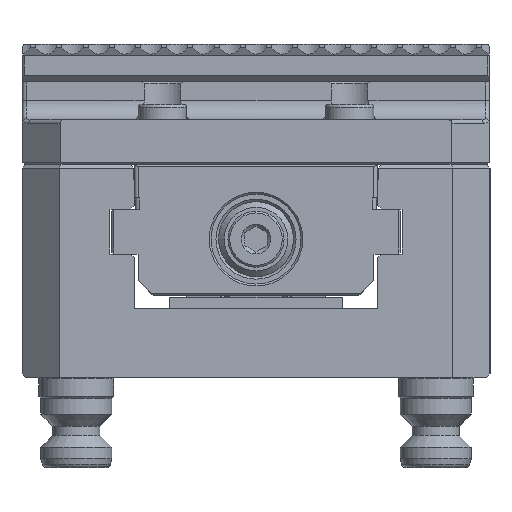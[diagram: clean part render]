
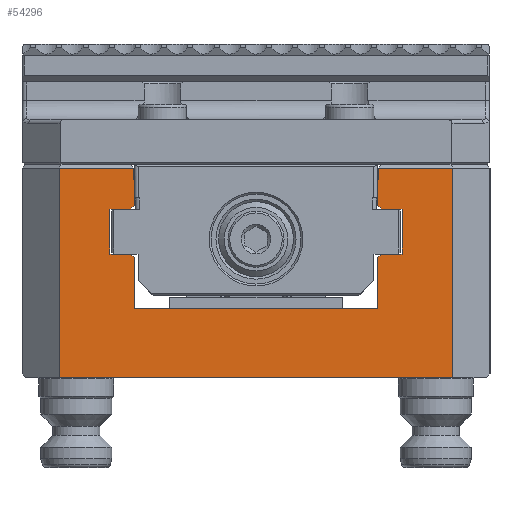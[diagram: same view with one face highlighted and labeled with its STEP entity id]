
A CAD part, left-side view. The second image highlights one B-rep face of the part: STEP entity #54296.
In plain terms, the highlighted planar face has unit normal (-1, 0, 0).
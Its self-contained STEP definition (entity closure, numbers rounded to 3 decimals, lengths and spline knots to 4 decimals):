
#2469=PLANE('',#56775);
#7257=LINE('',#85372,#11976);
#7263=LINE('',#85383,#11982);
#7971=LINE('',#91521,#12690);
#7974=LINE('',#91529,#12693);
#7978=LINE('',#91538,#12697);
#7984=LINE('',#91549,#12703);
#7991=LINE('',#91563,#12710);
#7996=LINE('',#91573,#12715);
#8003=LINE('',#91585,#12722);
#8010=LINE('',#91601,#12729);
#8069=LINE('',#91678,#12788);
#8071=LINE('',#91686,#12790);
#8091=LINE('',#91725,#12810);
#8099=LINE('',#91740,#12818);
#8100=LINE('',#91742,#12819);
#8106=LINE('',#91754,#12825);
#8112=LINE('',#91764,#12831);
#8113=LINE('',#91766,#12832);
#8114=LINE('',#91767,#12833);
#8115=LINE('',#91768,#12834);
#8116=LINE('',#91769,#12835);
#8117=LINE('',#91770,#12836);
#8118=LINE('',#91771,#12837);
#8119=LINE('',#91772,#12838);
#11976=VECTOR('',#63265,0.3937);
#11982=VECTOR('',#63273,0.3937);
#12690=VECTOR('',#64377,0.3937);
#12693=VECTOR('',#64382,0.3937);
#12697=VECTOR('',#64388,0.3937);
#12703=VECTOR('',#64396,0.3937);
#12710=VECTOR('',#64405,0.3937);
#12715=VECTOR('',#64412,0.3937);
#12722=VECTOR('',#64421,0.3937);
#12729=VECTOR('',#64432,0.3937);
#12788=VECTOR('',#64503,0.3937);
#12790=VECTOR('',#64511,0.3937);
#12810=VECTOR('',#64545,0.3937);
#12818=VECTOR('',#64555,0.3937);
#12819=VECTOR('',#64558,0.3937);
#12825=VECTOR('',#64566,0.3937);
#12831=VECTOR('',#64574,0.3937);
#12832=VECTOR('',#64577,0.3937);
#12833=VECTOR('',#64578,0.3937);
#12834=VECTOR('',#64579,0.3937);
#12835=VECTOR('',#64580,0.3937);
#12836=VECTOR('',#64581,0.3937);
#12837=VECTOR('',#64582,0.3937);
#12838=VECTOR('',#64583,0.3937);
#16707=FACE_OUTER_BOUND('',#19814,.T.);
#19814=EDGE_LOOP('',(#44933,#44934,#44935,#44936,#44937,#44938,#44939,#44940,
#44941,#44942,#44943,#44944,#44945,#44946,#44947,#44948,#44949,#44950,#44951,
#44952,#44953,#44954,#44955,#44956));
#24477=VERTEX_POINT('',#85369);
#24478=VERTEX_POINT('',#85371);
#24481=VERTEX_POINT('',#85380);
#24482=VERTEX_POINT('',#85382);
#25298=VERTEX_POINT('',#91519);
#25301=VERTEX_POINT('',#91526);
#25302=VERTEX_POINT('',#91528);
#25305=VERTEX_POINT('',#91535);
#25306=VERTEX_POINT('',#91537);
#25310=VERTEX_POINT('',#91548);
#25315=VERTEX_POINT('',#91560);
#25316=VERTEX_POINT('',#91562);
#25320=VERTEX_POINT('',#91572);
#25324=VERTEX_POINT('',#91584);
#25329=VERTEX_POINT('',#91597);
#25331=VERTEX_POINT('',#91600);
#25343=VERTEX_POINT('',#91675);
#25346=VERTEX_POINT('',#91684);
#25358=VERTEX_POINT('',#91724);
#25362=VERTEX_POINT('',#91734);
#25364=VERTEX_POINT('',#91738);
#25368=VERTEX_POINT('',#91751);
#25369=VERTEX_POINT('',#91753);
#25372=VERTEX_POINT('',#91761);
#30791=EDGE_CURVE('',#24477,#24478,#7257,.T.);
#30797=EDGE_CURVE('',#24481,#24482,#7263,.T.);
#32057=EDGE_CURVE('',#25298,#24477,#7971,.T.);
#32060=EDGE_CURVE('',#25301,#25302,#7974,.T.);
#32064=EDGE_CURVE('',#25305,#25306,#7978,.T.);
#32070=EDGE_CURVE('',#24482,#25310,#7984,.T.);
#32077=EDGE_CURVE('',#25315,#25316,#7991,.T.);
#32082=EDGE_CURVE('',#25316,#25320,#7996,.T.);
#32089=EDGE_CURVE('',#25320,#25324,#8003,.T.);
#32096=EDGE_CURVE('',#25329,#25331,#8010,.T.);
#32155=EDGE_CURVE('',#25331,#25343,#8069,.T.);
#32159=EDGE_CURVE('',#25343,#25346,#8071,.T.);
#32179=EDGE_CURVE('',#25324,#25358,#8091,.T.);
#32187=EDGE_CURVE('',#25362,#25364,#8099,.T.);
#32188=EDGE_CURVE('',#25364,#25358,#8100,.T.);
#32194=EDGE_CURVE('',#25369,#25368,#8106,.T.);
#32200=EDGE_CURVE('',#25346,#25372,#8112,.T.);
#32201=EDGE_CURVE('',#25362,#25329,#8113,.T.);
#32202=EDGE_CURVE('',#25310,#25315,#8114,.T.);
#32203=EDGE_CURVE('',#24478,#24481,#8115,.T.);
#32204=EDGE_CURVE('',#25302,#25298,#8116,.T.);
#32205=EDGE_CURVE('',#25306,#25301,#8117,.T.);
#32206=EDGE_CURVE('',#25369,#25305,#8118,.T.);
#32207=EDGE_CURVE('',#25368,#25372,#8119,.T.);
#44933=ORIENTED_EDGE('',*,*,#32201,.F.);
#44934=ORIENTED_EDGE('',*,*,#32187,.T.);
#44935=ORIENTED_EDGE('',*,*,#32188,.T.);
#44936=ORIENTED_EDGE('',*,*,#32179,.F.);
#44937=ORIENTED_EDGE('',*,*,#32089,.F.);
#44938=ORIENTED_EDGE('',*,*,#32082,.F.);
#44939=ORIENTED_EDGE('',*,*,#32077,.F.);
#44940=ORIENTED_EDGE('',*,*,#32202,.F.);
#44941=ORIENTED_EDGE('',*,*,#32070,.F.);
#44942=ORIENTED_EDGE('',*,*,#30797,.F.);
#44943=ORIENTED_EDGE('',*,*,#32203,.F.);
#44944=ORIENTED_EDGE('',*,*,#30791,.F.);
#44945=ORIENTED_EDGE('',*,*,#32057,.F.);
#44946=ORIENTED_EDGE('',*,*,#32204,.F.);
#44947=ORIENTED_EDGE('',*,*,#32060,.F.);
#44948=ORIENTED_EDGE('',*,*,#32205,.F.);
#44949=ORIENTED_EDGE('',*,*,#32064,.F.);
#44950=ORIENTED_EDGE('',*,*,#32206,.F.);
#44951=ORIENTED_EDGE('',*,*,#32194,.T.);
#44952=ORIENTED_EDGE('',*,*,#32207,.T.);
#44953=ORIENTED_EDGE('',*,*,#32200,.F.);
#44954=ORIENTED_EDGE('',*,*,#32159,.F.);
#44955=ORIENTED_EDGE('',*,*,#32155,.F.);
#44956=ORIENTED_EDGE('',*,*,#32096,.F.);
#54296=ADVANCED_FACE('',(#16707),#2469,.F.);
#56775=AXIS2_PLACEMENT_3D('',#91765,#64575,#64576);
#63265=DIRECTION('',(0.,0.,-1.));
#63273=DIRECTION('',(0.,0.,1.));
#64377=DIRECTION('',(0.,-0.707,-0.707));
#64382=DIRECTION('',(0.,0.,-1.));
#64388=DIRECTION('',(0.,0.707,-0.707));
#64396=DIRECTION('',(0.,-0.707,0.707));
#64405=DIRECTION('',(0.,0.,1.));
#64412=DIRECTION('',(0.,1.,0.));
#64421=DIRECTION('',(0.,0.707,0.707));
#64432=DIRECTION('',(0.,0.,-1.));
#64503=DIRECTION('',(0.,1.,0.));
#64511=DIRECTION('',(0.,0.,1.));
#64545=DIRECTION('',(0.,0.,1.));
#64555=DIRECTION('',(0.,0.,-1.));
#64558=DIRECTION('',(0.,1.,0.));
#64566=DIRECTION('',(0.,1.,0.));
#64574=DIRECTION('',(0.,-1.,0.));
#64575=DIRECTION('center_axis',(1.,0.,0.));
#64576=DIRECTION('ref_axis',(0.,1.,0.));
#64577=DIRECTION('',(0.,-1.,0.));
#64578=DIRECTION('',(0.,-1.,0.));
#64579=DIRECTION('',(0.,-1.,0.));
#64580=DIRECTION('',(0.,-1.,0.));
#64581=DIRECTION('',(0.,1.,0.));
#64582=DIRECTION('',(0.,0.,-1.));
#64583=DIRECTION('',(0.,0.,1.));
#85369=CARTESIAN_POINT('',(-4.1339,1.2795,1.6929));
#85371=CARTESIAN_POINT('',(-4.1339,1.2795,1.1614));
#85372=CARTESIAN_POINT('',(-4.1339,1.2795,1.6607));
#85380=CARTESIAN_POINT('',(-4.1339,-1.2795,1.1614));
#85382=CARTESIAN_POINT('',(-4.1339,-1.2795,1.6929));
#85383=CARTESIAN_POINT('',(-4.1339,-1.2795,1.6607));
#91519=CARTESIAN_POINT('',(-4.1339,1.3189,1.7323));
#91521=CARTESIAN_POINT('',(-4.1339,0.9598,1.3731));
#91526=CARTESIAN_POINT('',(-4.1339,1.5354,2.2047));
#91528=CARTESIAN_POINT('',(-4.1339,1.5354,1.7323));
#91529=CARTESIAN_POINT('',(-4.1339,1.5354,1.8969));
#91535=CARTESIAN_POINT('',(-4.1339,1.2795,2.2441));
#91537=CARTESIAN_POINT('',(-4.1339,1.3189,2.2047));
#91538=CARTESIAN_POINT('',(-4.1339,1.1495,2.3741));
#91548=CARTESIAN_POINT('',(-4.1339,-1.3189,1.7323));
#91549=CARTESIAN_POINT('',(-4.1339,-0.9273,1.3407));
#91560=CARTESIAN_POINT('',(-4.1339,-1.5354,1.7323));
#91562=CARTESIAN_POINT('',(-4.1339,-1.5354,2.2047));
#91563=CARTESIAN_POINT('',(-4.1339,-1.5354,1.8969));
#91572=CARTESIAN_POINT('',(-4.1339,-1.3189,2.2047));
#91573=CARTESIAN_POINT('',(-4.1339,-0.6073,2.2047));
#91584=CARTESIAN_POINT('',(-4.1339,-1.2795,2.2441));
#91585=CARTESIAN_POINT('',(-4.1339,-1.117,2.4066));
#91597=CARTESIAN_POINT('',(-4.1339,-2.0669,2.6378));
#91600=CARTESIAN_POINT('',(-4.1339,-2.0669,0.4331));
#91601=CARTESIAN_POINT('',(-4.1339,-2.0669,1.011));
#91675=CARTESIAN_POINT('',(-4.1339,2.0669,0.4331));
#91678=CARTESIAN_POINT('',(-4.1339,1.2628,0.4331));
#91684=CARTESIAN_POINT('',(-4.1339,2.0669,2.6378));
#91686=CARTESIAN_POINT('',(-4.1339,2.0669,1.011));
#91724=CARTESIAN_POINT('',(-4.1339,-1.2795,2.5197));
#91725=CARTESIAN_POINT('',(-4.1339,-1.2795,2.0937));
#91734=CARTESIAN_POINT('',(-4.1339,-1.2874,2.6378));
#91738=CARTESIAN_POINT('',(-4.1339,-1.2874,2.5197));
#91740=CARTESIAN_POINT('',(-4.1339,-1.2874,2.0544));
#91742=CARTESIAN_POINT('',(-4.1339,-0.5644,2.5197));
#91751=CARTESIAN_POINT('',(-4.1339,1.2874,2.5197));
#91753=CARTESIAN_POINT('',(-4.1339,1.2795,2.5197));
#91754=CARTESIAN_POINT('',(-4.1339,0.6762,2.5197));
#91761=CARTESIAN_POINT('',(-4.1339,1.2874,2.6378));
#91764=CARTESIAN_POINT('',(-4.1339,1.2628,2.6378));
#91765=CARTESIAN_POINT('Origin',(-4.1339,0.0649,1.589));
#91766=CARTESIAN_POINT('',(-4.1339,-1.1978,2.6378));
#91767=CARTESIAN_POINT('',(-4.1339,-0.7352,1.7323));
#91768=CARTESIAN_POINT('',(-4.1339,0.0325,1.1614));
#91769=CARTESIAN_POINT('',(-4.1339,0.8002,1.7323));
#91770=CARTESIAN_POINT('',(-4.1339,0.6722,2.2047));
#91771=CARTESIAN_POINT('',(-4.1339,1.2795,2.0937));
#91772=CARTESIAN_POINT('',(-4.1339,1.2874,2.1752));
